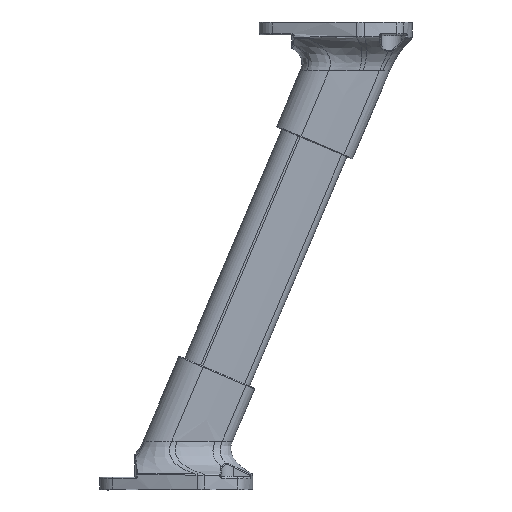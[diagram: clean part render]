
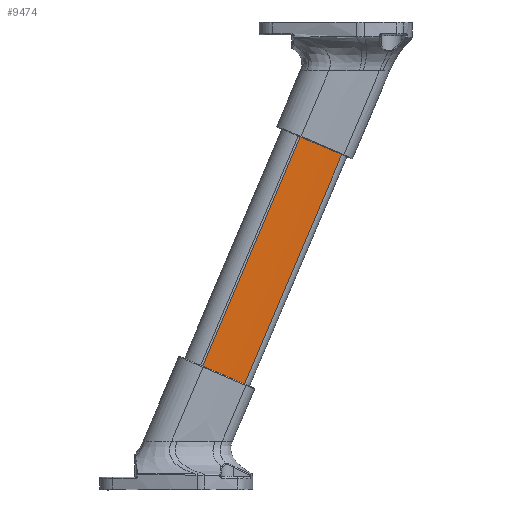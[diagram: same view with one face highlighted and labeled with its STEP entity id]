
A CAD part, left-side view. The second image highlights one B-rep face of the part: STEP entity #9474.
In plain terms, the highlighted cylindrical face has radius 60 mm (diameter 120 mm), a partial arc.
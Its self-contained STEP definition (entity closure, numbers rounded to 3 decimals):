
#657 = CARTESIAN_POINT ( 'NONE',  ( 55.108, -23.673, 28.238 ) ) ;
#1283 = CARTESIAN_POINT ( 'NONE',  ( -4.468, -10.652, -20.662 ) ) ;
#3345 = DIRECTION ( 'NONE',  ( -1., 0., 0. ) ) ;
#4237 = VECTOR ( 'NONE', #20842, 1000. ) ;
#5681 = FACE_OUTER_BOUND ( 'NONE', #14829, .T. ) ;
#6150 = EDGE_CURVE ( 'NONE', #25129, #32868, #23057, .T. ) ;
#6479 = DIRECTION ( 'NONE',  ( 0., 0.391, -0.921 ) ) ;
#7790 = CIRCLE ( 'NONE', #26317, 60. ) ;
#8750 = CARTESIAN_POINT ( 'NONE',  ( -1.9, -21.32, -25.19 ) ) ;
#9474 = ADVANCED_FACE ( 'NONE', ( #5681 ), #11950, .T. ) ;
#10450 = EDGE_CURVE ( 'NONE', #20432, #18297, #27837, .T. ) ;
#11950 = CYLINDRICAL_SURFACE ( 'NONE', #25921, 60. ) ;
#14004 = ORIENTED_EDGE ( 'NONE', *, *, #10450, .F. ) ;
#14455 = VECTOR ( 'NONE', #16600, 1000. ) ;
#14814 = CARTESIAN_POINT ( 'NONE',  ( -1.9, -21.32, -25.19 ) ) ;
#14829 = EDGE_LOOP ( 'NONE', ( #14004, #14966, #21912, #15904 ) ) ;
#14966 = ORIENTED_EDGE ( 'NONE', *, *, #26454, .T. ) ;
#15904 = ORIENTED_EDGE ( 'NONE', *, *, #23643, .F. ) ;
#16600 = DIRECTION ( 'NONE',  ( 0., 0.391, -0.921 ) ) ;
#16922 = DIRECTION ( 'NONE',  ( 0., 0.391, -0.921 ) ) ;
#17151 = CARTESIAN_POINT ( 'NONE',  ( -4.468, 26.719, -108.703 ) ) ;
#18297 = VERTEX_POINT ( 'NONE', #22063 ) ;
#20233 = AXIS2_PLACEMENT_3D ( 'NONE', #31615, #28549, #20438 ) ;
#20432 = VERTEX_POINT ( 'NONE', #14814 ) ;
#20438 = DIRECTION ( 'NONE',  ( -0.95, -0.287, -0.122 ) ) ;
#20842 = DIRECTION ( 'NONE',  ( 0., 0.391, -0.921 ) ) ;
#21912 = ORIENTED_EDGE ( 'NONE', *, *, #6150, .T. ) ;
#22063 = CARTESIAN_POINT ( 'NONE',  ( -1.9, 16.051, -113.231 ) ) ;
#23057 = LINE ( 'NONE', #1283, #4237 ) ;
#23643 = EDGE_CURVE ( 'NONE', #18297, #32868, #7790, .T. ) ;
#24478 = CARTESIAN_POINT ( 'NONE',  ( 55.108, 33.274, -105.92 ) ) ;
#25040 = DIRECTION ( 'NONE',  ( -0.95, -0.287, -0.122 ) ) ;
#25129 = VERTEX_POINT ( 'NONE', #25270 ) ;
#25270 = CARTESIAN_POINT ( 'NONE',  ( -4.468, -10.652, -20.662 ) ) ;
#25921 = AXIS2_PLACEMENT_3D ( 'NONE', #657, #16922, #3345 ) ;
#26317 = AXIS2_PLACEMENT_3D ( 'NONE', #24478, #6479, #25040 ) ;
#26454 = EDGE_CURVE ( 'NONE', #20432, #25129, #27341, .T. ) ;
#27341 = CIRCLE ( 'NONE', #20233, 60. ) ;
#27837 = LINE ( 'NONE', #8750, #14455 ) ;
#28549 = DIRECTION ( 'NONE',  ( 0., 0.391, -0.921 ) ) ;
#31615 = CARTESIAN_POINT ( 'NONE',  ( 55.108, -4.097, -17.879 ) ) ;
#32868 = VERTEX_POINT ( 'NONE', #17151 ) ;
